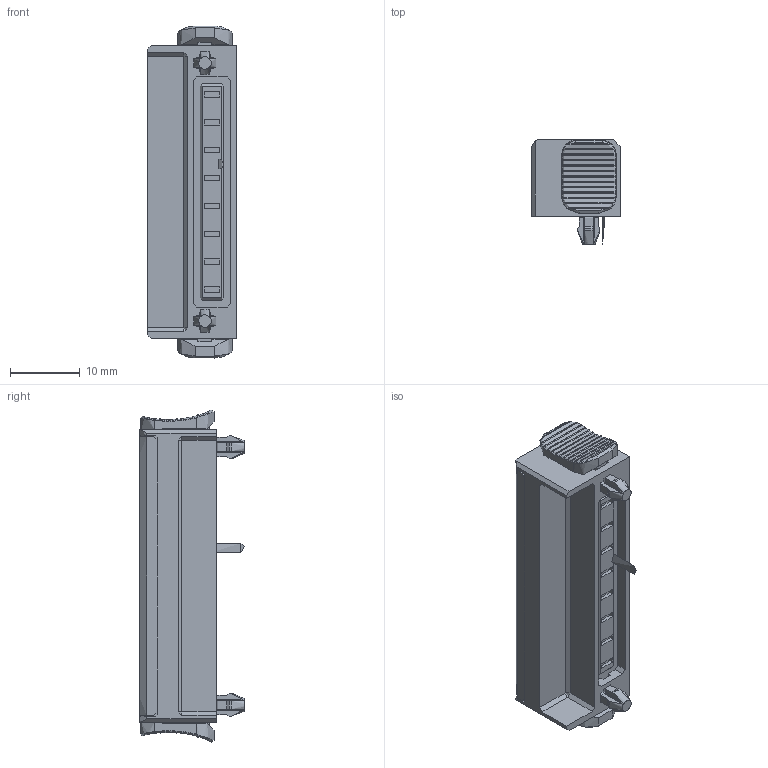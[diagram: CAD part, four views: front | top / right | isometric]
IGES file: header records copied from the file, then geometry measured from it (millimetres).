
Global section: file name: 21.08.212.113.1; native system: unknown; preprocessor: unknown; author: unknown; organization: unknown; date: 20221117.062719; units: millimetre
Bounding box: 12.7 x 15.02 x 47.62 mm (x, y, z)
Volume: 4553.1 mm3; surface area: 3582.9 mm2
Topology: 1 solids, 1 shells, 1202 faces, 3425 edges, 2206 vertices
Faces by surface type: bspline 1202
